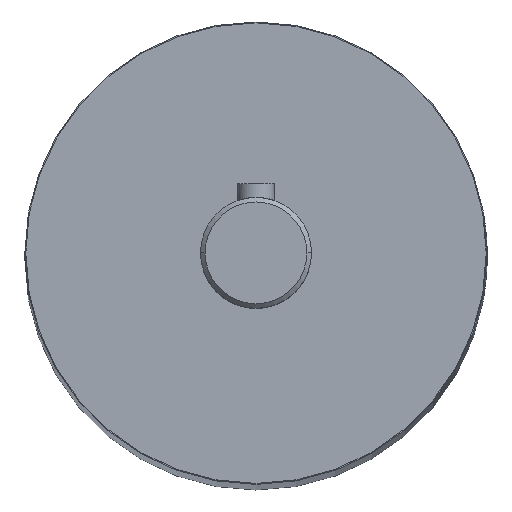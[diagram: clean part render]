
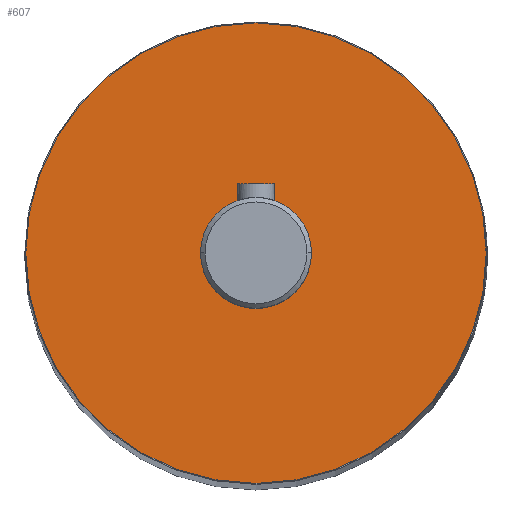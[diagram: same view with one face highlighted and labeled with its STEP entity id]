
A CAD part, top view. The second image highlights one B-rep face of the part: STEP entity #607.
In plain terms, the highlighted planar face has unit normal (0, 0, 1).
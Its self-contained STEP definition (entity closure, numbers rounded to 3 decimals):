
#9 = CARTESIAN_POINT ( 'NONE',  ( 0., 0., 177.5 ) ) ;
#42 = EDGE_CURVE ( 'NONE', #1410, #1058, #478, .T. ) ;
#128 = DIRECTION ( 'NONE',  ( 1., 0., 0. ) ) ;
#212 = ORIENTED_EDGE ( 'NONE', *, *, #925, .F. ) ;
#246 = CIRCLE ( 'NONE', #431, 24.9 ) ;
#270 = VERTEX_POINT ( 'NONE', #1915 ) ;
#362 = CIRCLE ( 'NONE', #428, 6. ) ;
#406 = DIRECTION ( 'NONE',  ( 1., 0., 0. ) ) ;
#428 = AXIS2_PLACEMENT_3D ( 'NONE', #727, #1604, #128 ) ;
#431 = AXIS2_PLACEMENT_3D ( 'NONE', #528, #1309, #1727 ) ;
#453 = AXIS2_PLACEMENT_3D ( 'NONE', #1454, #1163, #406 ) ;
#478 = CIRCLE ( 'NONE', #1585, 24.9 ) ;
#501 = CARTESIAN_POINT ( 'NONE',  ( 24.9, 0., 177.5 ) ) ;
#528 = CARTESIAN_POINT ( 'NONE',  ( 0., 0., 177.5 ) ) ;
#555 = ORIENTED_EDGE ( 'NONE', *, *, #1159, .T. ) ;
#591 = CIRCLE ( 'NONE', #453, 6. ) ;
#607 = ADVANCED_FACE ( 'NONE', ( #679, #802 ), #1848, .T. ) ;
#611 = DIRECTION ( 'NONE',  ( 1., 0., 0. ) ) ;
#679 = FACE_BOUND ( 'NONE', #1316, .T. ) ;
#696 = CARTESIAN_POINT ( 'NONE',  ( 0., 0., 177.5 ) ) ;
#727 = CARTESIAN_POINT ( 'NONE',  ( 0., 0., 177.5 ) ) ;
#802 = FACE_OUTER_BOUND ( 'NONE', #1114, .T. ) ;
#858 = DIRECTION ( 'NONE',  ( 0., 0., 1. ) ) ;
#917 = VERTEX_POINT ( 'NONE', #1175 ) ;
#925 = EDGE_CURVE ( 'NONE', #917, #270, #591, .T. ) ;
#1017 = EDGE_CURVE ( 'NONE', #270, #917, #362, .T. ) ;
#1035 = AXIS2_PLACEMENT_3D ( 'NONE', #696, #858, #1317 ) ;
#1058 = VERTEX_POINT ( 'NONE', #501 ) ;
#1084 = ORIENTED_EDGE ( 'NONE', *, *, #1017, .F. ) ;
#1114 = EDGE_LOOP ( 'NONE', ( #1785, #555 ) ) ;
#1159 = EDGE_CURVE ( 'NONE', #1058, #1410, #246, .T. ) ;
#1163 = DIRECTION ( 'NONE',  ( 0., 0., 1. ) ) ;
#1175 = CARTESIAN_POINT ( 'NONE',  ( 6., 0., 177.5 ) ) ;
#1309 = DIRECTION ( 'NONE',  ( 0., 0., 1. ) ) ;
#1316 = EDGE_LOOP ( 'NONE', ( #1084, #212 ) ) ;
#1317 = DIRECTION ( 'NONE',  ( 1., 0., 0. ) ) ;
#1410 = VERTEX_POINT ( 'NONE', #1632 ) ;
#1454 = CARTESIAN_POINT ( 'NONE',  ( 0., 0., 177.5 ) ) ;
#1536 = DIRECTION ( 'NONE',  ( 0., 0., 1. ) ) ;
#1585 = AXIS2_PLACEMENT_3D ( 'NONE', #9, #1536, #611 ) ;
#1604 = DIRECTION ( 'NONE',  ( 0., 0., 1. ) ) ;
#1632 = CARTESIAN_POINT ( 'NONE',  ( -24.9, 0., 177.5 ) ) ;
#1727 = DIRECTION ( 'NONE',  ( 1., 0., 0. ) ) ;
#1785 = ORIENTED_EDGE ( 'NONE', *, *, #42, .T. ) ;
#1848 = PLANE ( 'NONE',  #1035 ) ;
#1915 = CARTESIAN_POINT ( 'NONE',  ( -6., 0., 177.5 ) ) ;
